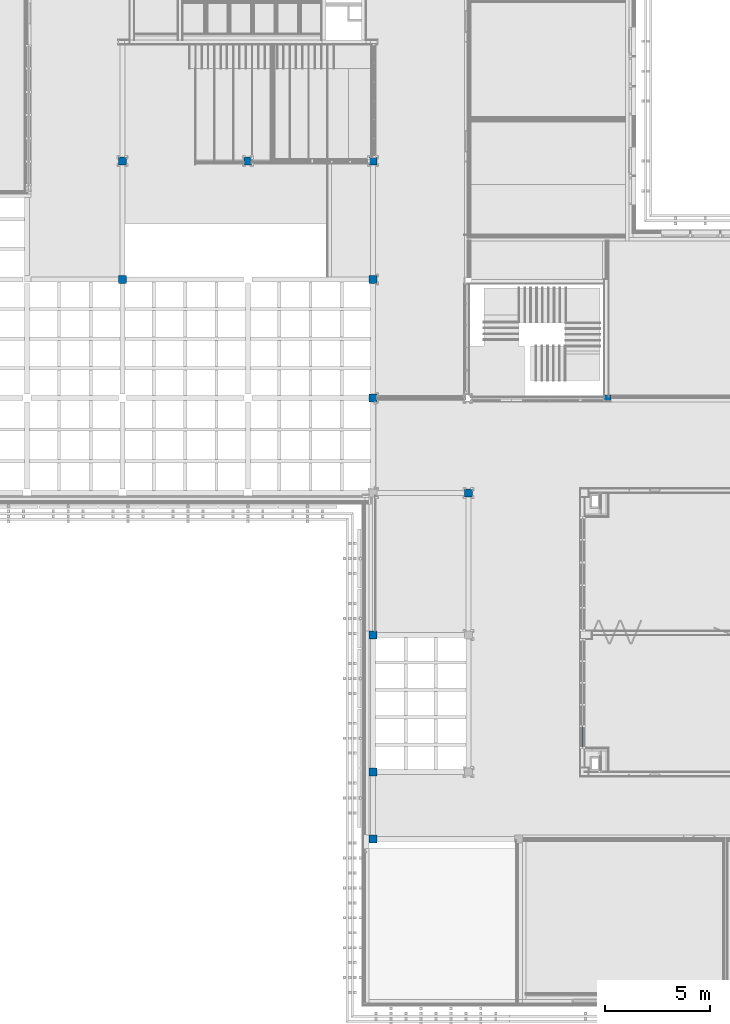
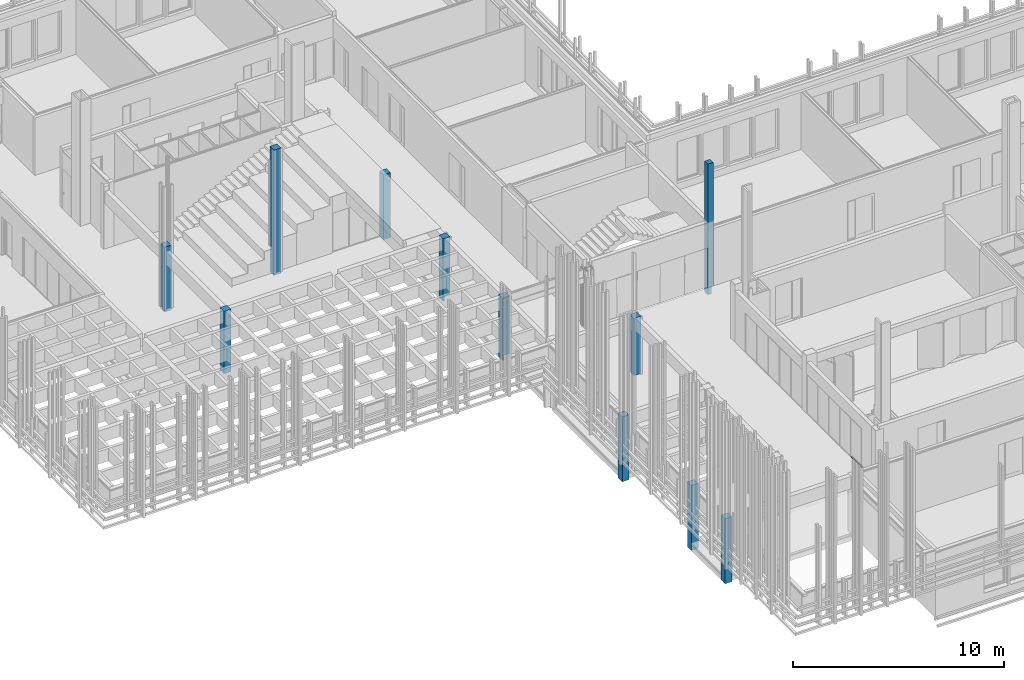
# One storey, part 1 of 139: 11 columns, 1 member, 1 element without a shape of its own.
"""IFC2X3 building model written with IfcOpenShell, lengths in millimetres."""

from ifc_helpers import new_model, entity, si_unit, converted_unit, derived_unit, money_unit, direction, frame, origin_with_axes, place, context, subcontext, project, spatial, faceted_brep, source, transform, mapped, material, type_object, element, aggregate, save


model = new_model("IFC2X3")

# Units and contexts
model_context = context("Model", 3, precision=0.01, world=origin_with_axes(), true_north=direction((0.0, 1.0)))
body_context = subcontext(model_context, "Body", "Model", "MODEL_VIEW")
ifc_project = project(units=[si_unit("LENGTHUNIT", "METRE", prefix="MILLI"), si_unit("AREAUNIT", "SQUARE_METRE"), si_unit("VOLUMEUNIT", "CUBIC_METRE"), converted_unit("PLANEANGLEUNIT", "DEGREE", entity("IfcPlaneAngleMeasure", 0.0174532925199), si_unit("PLANEANGLEUNIT", "RADIAN"), dimensions=[0, 0, 0, 0, 0, 0, 0]), money_unit("EUR"), converted_unit("TIMEUNIT", "Year", entity("IfcTimeMeasure", 31556926.0), si_unit("TIMEUNIT", "SECOND"), dimensions=[0, 0, 1, 0, 0, 0, 0]), si_unit("MASSUNIT", "GRAM", prefix="KILO"), si_unit("THERMODYNAMICTEMPERATUREUNIT", "DEGREE_CELSIUS"), si_unit("LUMINOUSINTENSITYUNIT", "LUMEN"), si_unit("ENERGYUNIT", "JOULE", prefix="MEGA"), derived_unit("THERMALCONDUCTANCEUNIT", [(si_unit("POWERUNIT", "WATT"), 1), (si_unit("LENGTHUNIT", "METRE"), -1), (si_unit("THERMODYNAMICTEMPERATUREUNIT", "KELVIN"), -1)]), derived_unit("SPECIFICHEATCAPACITYUNIT", [(si_unit("ENERGYUNIT", "JOULE"), 1), (si_unit("MASSUNIT", "GRAM", prefix="KILO"), -1), (si_unit("THERMODYNAMICTEMPERATUREUNIT", "KELVIN"), -1)]), derived_unit("MASSDENSITYUNIT", [(si_unit("MASSUNIT", "GRAM", prefix="KILO"), 1), (si_unit("VOLUMEUNIT", "CUBIC_METRE"), -1)])], contexts=[model_context])

# Site, building, storey
site_placement = place(None, origin_with_axes())
site = spatial("IfcSite", under=ifc_project, at=site_placement, Name="Kolde pst 67a", CompositionType="ELEMENT")
building_placement = place(site_placement, origin_with_axes())
building = spatial("IfcBuilding", under=site, at=building_placement, Name="Riigigümnaasium", CompositionType="ELEMENT")
storey_placement = place(building_placement, frame((0.0, 0.0, 4600.0), z_axis=(0.0, 0.0, 1.0), x_axis=(1.0, 0.0, 0.0)))
storey = spatial("IfcBuildingStorey", under=building, at=storey_placement, Name="2. korrus", CompositionType="ELEMENT", Elevation=4600.0)

# Columns
ifc_material_1 = material(Name="_KANDETARIND - liimpuit vastavalt EK osale")
column_type_1 = type_object("IfcColumnType", Name="_KANDETARIND - liimpuit vastavalt EK osale 380 x 380", PredefinedType="COLUMN")
column_1_placement = place(storey_placement, frame((42239.99923, 40089.9999168, -130.0), z_axis=(0.0, 0.0, 1.0), x_axis=(1.0, 0.0, 0.0)))
element("IfcColumn", 1, at=column_1_placement, inside=storey, type_object=column_type_1, material=ifc_material_1, Name="POST", ObjectType="COLUMN", context=body_context, shape_type="Brep", body=[
    faceted_brep([(-190.0, -190.0, 7260.0), (-190.0, -190.0, 0.0), (190.0, -190.0, 0.0), (190.0, -190.0, 7260.0), (-190.0, 190.0, 7260.0), (-190.0, 190.0, 0.0), (190.0, 190.0, 0.0), (190.0, 190.0, 7260.0)], [[[0, 1, 2, 3]], [[4, 5, 1, 0]], [[2, 1, 5, 6]], [[3, 2, 6, 7]], [[4, 0, 3, 7]], [[7, 6, 5, 4]]]),
])
column_2_placement = place(storey_placement, frame((52779.9941222, 24229.9965348, -150.0), z_axis=(0.0, 0.0, 1.0), x_axis=(1.0, 0.0, 0.0)))
element("IfcColumn", 2, at=column_2_placement, inside=storey, type_object=column_type_1, material=ifc_material_1, Name="POST", ObjectType="COLUMN", context=body_context, shape_type="Brep", body=[
    faceted_brep([(190.0, -190.0, 150.0), (190.0, 190.0, 150.0), (190.0, 190.0, 3470.0), (190.0, -190.0, 3470.0), (-190.0, 190.0, 150.0), (-190.0, -190.0, 150.0), (-190.0, 190.0, 3470.0), (-190.0, -190.0, 3470.0)], [[[0, 1, 2, 3]], [[4, 1, 0, 5]], [[1, 4, 6, 2]], [[3, 2, 6, 7]], [[5, 0, 3, 7]], [[4, 5, 7, 6]]]),
])
column_3_placement = place(storey_placement, frame((48229.9854607, 34439.9999729, -290.0), z_axis=(0.0, 0.0, 1.0), x_axis=(1.0, 0.0, 0.0)))
element("IfcColumn", 3, at=column_3_placement, inside=storey, type_object=column_type_1, material=ifc_material_1, Name="POST", ObjectType="COLUMN", context=body_context, shape_type="Brep", body=[
    faceted_brep([(190.0, -190.0, 290.0), (190.0, 190.0, 290.0), (190.0, 190.0, 3610.0), (190.0, -190.0, 3610.0), (-120.017889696, 190.0, 290.0), (-120.016775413, -190.0, 290.0), (-120.017889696, 190.0, 140.0), (-120.017889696, 190.0, 0.0), (-190.0, 190.0, 0.0), (-190.0, 190.0, 3610.0), (-120.017889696, 190.0, 287.0), (-120.017889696, 190.0, 190.0), (-120.017889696, 190.0, 160.0), (-190.0, -190.0, 3610.0), (-190.0, -190.0, 0.0), (-120.016775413, -190.0, 0.0), (-120.016775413, -190.0, 140.0), (-120.016775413, -190.0, 160.0), (-120.016775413, -190.0, 190.0), (-120.016775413, -190.0, 287.0)], [[[0, 1, 2, 3]], [[4, 1, 0, 5]], [[6, 7, 8, 9, 2, 1, 4, 10, 11, 12]], [[3, 2, 9, 13]], [[5, 0, 3, 13, 14, 15, 16, 17, 18, 19]], [[10, 4, 5, 19]], [[7, 6, 16, 15]], [[7, 15, 14, 8]], [[14, 13, 9, 8]], [[11, 10, 19, 18]], [[12, 11, 18, 17]], [[6, 12, 17, 16]]]),
])
column_4_placement = place(storey_placement, frame((36249.99923, 34439.9999729, -290.0), z_axis=(0.0, 0.0, 1.0), x_axis=(1.0, 0.0, 0.0)))
element("IfcColumn", 4, at=column_4_placement, inside=storey, type_object=column_type_1, material=ifc_material_1, Name="POST", ObjectType="COLUMN", context=body_context, shape_type="Brep", body=[
    faceted_brep([(-190.0, -190.0, 3610.0), (-190.0, -190.0, 0.0), (190.0, -190.0, 0.0), (190.0, -190.0, 3610.0), (-190.0, 190.0, 3610.0), (-190.0, 190.0, 0.0), (190.0, 190.0, 0.0), (190.0, 190.0, 3610.0)], [[[0, 1, 2, 3]], [[4, 5, 1, 0]], [[2, 1, 5, 6]], [[3, 2, 6, 7]], [[4, 0, 3, 7]], [[7, 6, 5, 4]]]),
])
for number, where, z_axis, x_axis, name in (
    (5, (48229.9854607, 40089.9999168, -150.0), (0.0, 0.0, 1.0), (1.0, 0.0, 0.0), "POST"),
    (6, (36249.99923, 40089.9999168, -150.0), (0.0, 0.0, 1.0), (1.0, 0.0, 0.0), "POST"),
    (7, (48229.9854798, 7710.0, -430.0), (0.0, 0.0, 1.0), (1.0, 0.0, 0.0), "POST"),
):
    element("IfcColumn", number, at=place(storey_placement, frame(where, z_axis=z_axis, x_axis=x_axis)), inside=storey, type_object=column_type_1, material=ifc_material_1, Name=name, ObjectType="COLUMN", context=body_context, shape_type="Brep", body=[
        faceted_brep([(-190.0, -190.0, 3750.0), (-190.0, -190.0, 0.0), (190.0, -190.0, 0.0), (190.0, -190.0, 3750.0), (-190.0, 190.0, 3750.0), (-190.0, 190.0, 0.0), (190.0, 190.0, 0.0), (190.0, 190.0, 3750.0)], [[[0, 1, 2, 3]], [[4, 5, 1, 0]], [[2, 1, 5, 6]], [[3, 2, 6, 7]], [[4, 0, 3, 7]], [[7, 6, 5, 4]]]),
    ])
for number, where, z_axis, x_axis, name in (
    (8, (48229.9854991, 10899.9619736, -430.0), (0.0, 0.0, 1.0), (1.0, 0.0, 0.0), "POST"),
    (9, (48229.985469, 17449.9999742, -430.0), (0.0, 0.0, 1.0), (1.0, 0.0, 0.0), "POST"),
):
    element("IfcColumn", number, at=place(storey_placement, frame(where, z_axis=z_axis, x_axis=x_axis)), inside=storey, type_object=column_type_1, material=ifc_material_1, Name=name, ObjectType="COLUMN", context=body_context, shape_type="Brep", body=[
        faceted_brep([(190.0, -190.0, 3750.0), (-190.0, -190.0, 3750.0), (-190.0, -190.0, 0.0), (190.0, -190.0, 0.0), (190.0, 190.0, 3750.0), (-190.0, 190.0, 3750.0), (-190.0, 190.0, 0.0), (190.0, 190.0, 0.0)], [[[0, 1, 2, 3]], [[4, 5, 1, 0]], [[1, 5, 6, 2]], [[7, 3, 2, 6]], [[4, 0, 3, 7]], [[5, 4, 7, 6]]]),
    ])
column_5_placement = place(storey_placement, frame((48229.9854607, 28779.9996998, -290.0), z_axis=(0.0, 0.0, 1.0), x_axis=(1.0, 0.0, 0.0)))
element("IfcColumn", 10, at=column_5_placement, inside=storey, type_object=column_type_1, material=ifc_material_1, Name="POST", ObjectType="COLUMN", context=body_context, shape_type="Brep", body=[
    faceted_brep([(190.0, -190.0, 290.0), (190.0, 190.0, 290.0), (190.0, 190.0, 3610.0), (190.0, -190.0, 3610.0), (-120.001292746, 190.0, 290.0), (-120.000178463, -190.0, 290.0), (-120.001292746, 190.0, 140.0), (-120.001292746, 190.0, 0.0), (-190.0, 190.0, 0.0), (-190.0, 190.0, 3610.0), (-120.001292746, 190.0, 287.0), (-120.001292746, 190.0, 190.0), (-120.001292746, 190.0, 160.0), (-190.0, -190.0, 3610.0), (-190.0, -190.0, 0.0), (-120.000178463, -190.0, 0.0), (-120.000178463, -190.0, 140.0), (-120.000178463, -190.0, 160.0), (-120.000178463, -190.0, 190.0), (-120.000178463, -190.0, 287.0)], [[[0, 1, 2, 3]], [[4, 1, 0, 5]], [[6, 7, 8, 9, 2, 1, 4, 10, 11, 12]], [[3, 2, 9, 13]], [[5, 0, 3, 13, 14, 15, 16, 17, 18, 19]], [[10, 4, 5, 19]], [[7, 6, 16, 15]], [[7, 15, 14, 8]], [[14, 13, 9, 8]], [[11, 10, 19, 18]], [[12, 11, 18, 17]], [[6, 12, 17, 16]]]),
])
ifc_material_2 = material(Name="_KANDETARIND - raudbetoon C25/30 vastavalt EK osale")
column_type_2 = type_object("IfcColumnType", Name="_KANDETARIND - raudbetoon C25/30 vastavalt EK osale 300 x 300", PredefinedType="COLUMN")
column_6_placement = place(storey_placement, frame((59430.0567695, 28769.999656, -430.0), z_axis=(0.0, 0.0, 1.0), x_axis=(1.0, 0.0, 0.0)))
element("IfcColumn", 11, at=column_6_placement, inside=storey, type_object=column_type_2, material=ifc_material_2, Name="POST", ObjectType="COLUMN", context=body_context, shape_type="Brep", body=[
    faceted_brep([(150.0, -150.0, 430.0), (150.0, 110.00004372, 430.0), (150.0, 150.0, 430.0), (150.0, 150.0, 7560.0), (150.0, -150.0, 7560.0), (49.9564579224, 150.0, 430.0), (49.9564579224, -150.0, 430.0), (49.9564579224, 150.0, 280.0), (49.9564579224, 150.0, 0.0), (-150.0, 150.0, 0.0), (-150.0, 150.0, 7560.0), (49.9564579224, 150.0, 427.0), (49.9564579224, 150.0, 330.0), (49.9564579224, 150.0, 300.0), (-150.0, -150.0, 7560.0), (-150.0, -150.0, 0.0), (49.9564579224, -150.0, 0.0), (49.9564579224, -150.0, 280.0), (49.9564579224, -150.0, 300.0), (49.9564579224, -150.0, 330.0), (49.9564579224, -150.0, 427.0)], [[[0, 1, 2, 3, 4]], [[5, 2, 1, 0, 6]], [[7, 8, 9, 10, 3, 2, 5, 11, 12, 13]], [[4, 3, 10, 14]], [[6, 0, 4, 14, 15, 16, 17, 18, 19, 20]], [[11, 5, 6, 20]], [[8, 7, 17, 16]], [[8, 16, 15, 9]], [[15, 14, 10, 9]], [[12, 11, 20, 19]], [[13, 12, 19, 18]], [[7, 13, 18, 17]]]),
])

# Curtain wall, member
curtain_wall_type = type_object("IfcCurtainWallType", Name="Curtain Wall Type", PredefinedType="NOTDEFINED")
curtain_wall_placement = place(storey_placement, frame((58149.9590802, 13604.9614037, -2.92339397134e-05), z_axis=(0.0, 0.0, 1.0), x_axis=(1.0, 0.0, 0.0)))
curtain_wall = element("IfcCurtainWall", 12, at=curtain_wall_placement, inside=storey, type_object=curtain_wall_type, Name="KLAASSEIN")
ifc_material_3 = material(Name="_METALL - alumiinium")
member_type = type_object("IfcMemberType", Name="Boundary Frame 50 x 100", PredefinedType="MEMBER")
shared_shape = source(origin_with_axes(), body_context, "Body", "Brep", [
    faceted_brep([(-30.0, -10.0, 1040.0), (-50.0, -10.0, 1040.0), (-50.0, -80.0, 1040.0), (0.0, -80.0, 1040.0), (0.0, 20.0, 1040.0), (-50.0, 20.0, 1040.0), (-50.0, 10.0, 1040.0), (-30.0, 10.0, 1040.0), (-30.0, -10.0, 30.0), (-50.0, -10.0, 50.0), (-50.0, -80.0, 50.0), (0.0, -80.0, 0.0), (0.0, 20.0, 0.0), (-50.0, 20.0, 50.0), (-50.0, 10.0, 50.0), (-30.0, 10.0, 30.0)], [[[0, 1, 2, 3, 4, 5, 6, 7]], [[0, 8, 9, 1]], [[9, 10, 2, 1]], [[2, 10, 11, 3]], [[3, 11, 12, 4]], [[4, 12, 13, 5]], [[6, 5, 13, 14]], [[14, 15, 7, 6]], [[7, 15, 8, 0]], [[8, 15, 14, 13, 12, 11, 10, 9]]]),
])
member_placement = place(curtain_wall_placement, frame((0.00440157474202, -1559.99999999, 0.0), z_axis=(-2.82152227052e-06, 0.999999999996, 0.0), x_axis=(0.0, 0.0, 1.0)))
member = element("IfcMember", 13, at=member_placement, type_object=member_type, material=ifc_material_3, Name="RF RAAM SERV-656", ObjectType="MEMBER", context=body_context, shape_type="MappedRepresentation", body=[
    mapped(shared_shape, transform((0.0, 0.0, 0.0), x_axis=(-1.0, 0.0, 0.0), y_axis=(0.0, -1.0, 0.0), z_axis=(0.0, 0.0, 1.0))),
])
aggregate(curtain_wall, [member])

save(model, "model.ifc")
